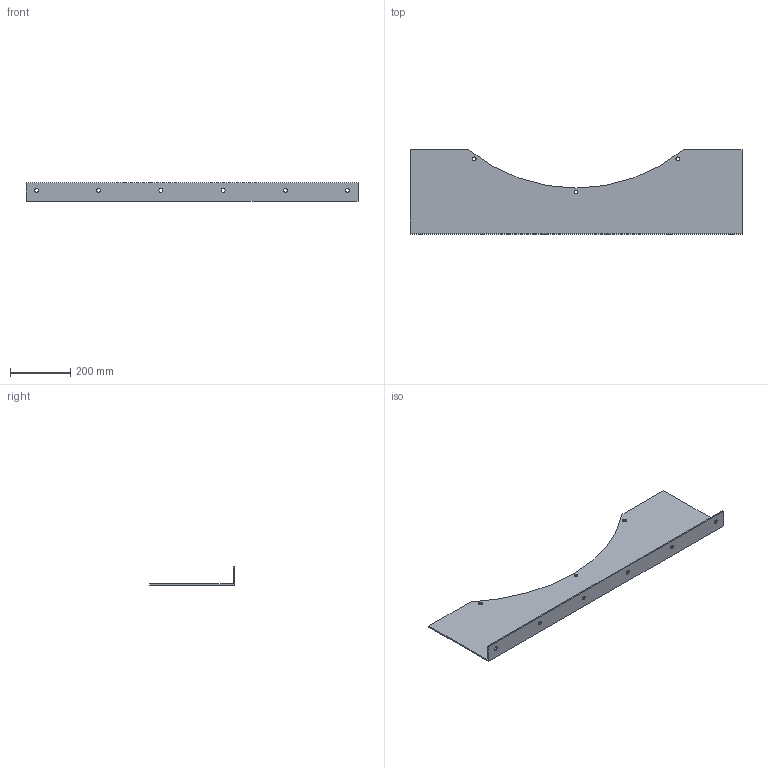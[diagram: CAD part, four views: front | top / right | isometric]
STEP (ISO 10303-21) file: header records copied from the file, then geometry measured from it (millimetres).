
FILE_DESCRIPTION(('STEP AP214'),'1');
FILE_NAME('accessory_5138807200.stp','2017-10-09T07:39:02',('TraceParts'),('TraceParts S.A.'),'Spatial InterOp 3D',' ',' ');
FILE_SCHEMA(('automotive_design'));
Length unit declared in the file: millimetre
Products named in the file (1): accessory_5138807200
Bounding box: 1100 x 280 x 60 mm (x, y, z)
Volume: 1226805.3 mm3; surface area: 626597 mm2
Topology: 1 solids, 1 shells, 28 faces, 78 edges, 52 vertices
Faces by surface type: cylinder 19, plane 9
Entity records: 1196 total; most frequent: DIRECTION 174, CARTESIAN_POINT 159, ORIENTED_EDGE 156, EDGE_CURVE 78, AXIS2_PLACEMENT_3D 67, VERTEX_POINT 52, EDGE_LOOP 46, LINE 40
